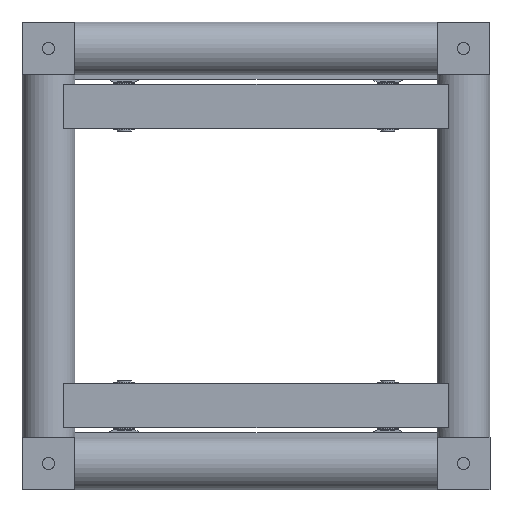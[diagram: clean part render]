
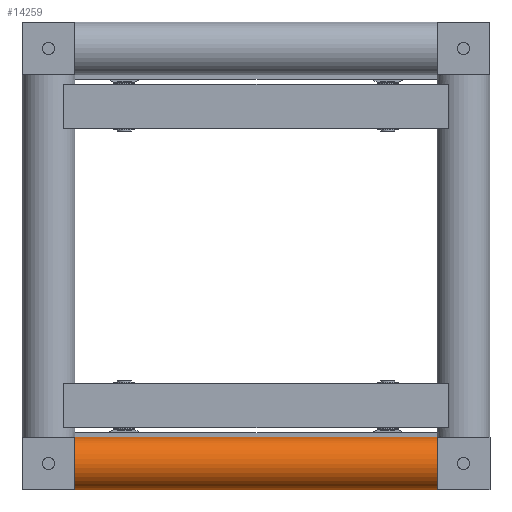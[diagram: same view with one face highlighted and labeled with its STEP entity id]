
A CAD part, left-side view. The second image highlights one B-rep face of the part: STEP entity #14259.
In plain terms, the highlighted cylindrical face has radius 30 mm (diameter 60 mm), a full revolution.
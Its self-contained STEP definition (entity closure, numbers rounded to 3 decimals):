
#2220=FACE_BOUND('',#4601,.T.);
#3134=FACE_OUTER_BOUND('',#4600,.T.);
#4600=EDGE_LOOP('',(#10352,#10353,#10354,#10355));
#4601=EDGE_LOOP('',(#10356,#10357,#10358,#10359));
#6092=CIRCLE('',#15856,30.);
#6093=CIRCLE('',#15857,30.);
#6094=CIRCLE('',#15858,30.);
#6095=CIRCLE('',#15859,30.);
#6096=CIRCLE('',#15860,30.);
#6097=CIRCLE('',#15861,30.);
#6098=CIRCLE('',#15862,30.);
#6099=CIRCLE('',#15863,30.);
#6983=VERTEX_POINT('',#22916);
#6997=VERTEX_POINT('',#22964);
#7088=VERTEX_POINT('',#23209);
#7089=VERTEX_POINT('',#23210);
#7090=VERTEX_POINT('',#23212);
#7091=VERTEX_POINT('',#23214);
#7092=VERTEX_POINT('',#23217);
#7093=VERTEX_POINT('',#23218);
#8364=EDGE_CURVE('',#7088,#7089,#6092,.T.);
#8365=EDGE_CURVE('',#7090,#7088,#6093,.T.);
#8366=EDGE_CURVE('',#7091,#7090,#6094,.T.);
#8367=EDGE_CURVE('',#7089,#7091,#6095,.T.);
#8368=EDGE_CURVE('',#7092,#7093,#6096,.T.);
#8369=EDGE_CURVE('',#6997,#7092,#6097,.T.);
#8370=EDGE_CURVE('',#6983,#6997,#6098,.T.);
#8371=EDGE_CURVE('',#7093,#6983,#6099,.T.);
#10352=ORIENTED_EDGE('',*,*,#8364,.F.);
#10353=ORIENTED_EDGE('',*,*,#8365,.F.);
#10354=ORIENTED_EDGE('',*,*,#8366,.F.);
#10355=ORIENTED_EDGE('',*,*,#8367,.F.);
#10356=ORIENTED_EDGE('',*,*,#8368,.F.);
#10357=ORIENTED_EDGE('',*,*,#8369,.F.);
#10358=ORIENTED_EDGE('',*,*,#8370,.F.);
#10359=ORIENTED_EDGE('',*,*,#8371,.F.);
#12540=CYLINDRICAL_SURFACE('',#15855,30.);
#14259=ADVANCED_FACE('',(#3134,#2220),#12540,.T.);
#15855=AXIS2_PLACEMENT_3D('',#23208,#18991,#18992);
#15856=AXIS2_PLACEMENT_3D('',#23211,#18993,#18994);
#15857=AXIS2_PLACEMENT_3D('',#23213,#18995,#18996);
#15858=AXIS2_PLACEMENT_3D('',#23215,#18997,#18998);
#15859=AXIS2_PLACEMENT_3D('',#23216,#18999,#19000);
#15860=AXIS2_PLACEMENT_3D('',#23219,#19001,#19002);
#15861=AXIS2_PLACEMENT_3D('',#23220,#19003,#19004);
#15862=AXIS2_PLACEMENT_3D('',#23221,#19005,#19006);
#15863=AXIS2_PLACEMENT_3D('',#23222,#19007,#19008);
#18991=DIRECTION('center_axis',(0.,-1.,0.));
#18992=DIRECTION('ref_axis',(0.058,0.,0.998));
#18993=DIRECTION('center_axis',(0.,-1.,0.));
#18994=DIRECTION('ref_axis',(0.058,0.,0.998));
#18995=DIRECTION('center_axis',(0.,-1.,0.));
#18996=DIRECTION('ref_axis',(0.058,0.,0.998));
#18997=DIRECTION('center_axis',(0.,-1.,0.));
#18998=DIRECTION('ref_axis',(0.058,0.,0.998));
#18999=DIRECTION('center_axis',(0.,-1.,0.));
#19000=DIRECTION('ref_axis',(0.058,0.,0.998));
#19001=DIRECTION('center_axis',(0.,1.,0.));
#19002=DIRECTION('ref_axis',(0.058,0.,0.998));
#19003=DIRECTION('center_axis',(0.,1.,0.));
#19004=DIRECTION('ref_axis',(0.058,0.,0.998));
#19005=DIRECTION('center_axis',(0.,1.,0.));
#19006=DIRECTION('ref_axis',(0.058,0.,0.998));
#19007=DIRECTION('center_axis',(0.,1.,0.));
#19008=DIRECTION('ref_axis',(0.058,0.,0.998));
#22916=CARTESIAN_POINT('',(0.,-30.,-440.));
#22964=CARTESIAN_POINT('',(30.,-30.,-470.));
#23208=CARTESIAN_POINT('Origin',(0.,-30.,
-470.));
#23209=CARTESIAN_POINT('',(-30.,-440.,-470.));
#23210=CARTESIAN_POINT('',(0.,-440.,-500.));
#23211=CARTESIAN_POINT('Origin',(0.,-440.,
-470.));
#23212=CARTESIAN_POINT('',(0.,-440.,-440.));
#23213=CARTESIAN_POINT('Origin',(0.,-440.,
-470.));
#23214=CARTESIAN_POINT('',(30.,-440.,-470.));
#23215=CARTESIAN_POINT('Origin',(0.,-440.,
-470.));
#23216=CARTESIAN_POINT('Origin',(0.,-440.,
-470.));
#23217=CARTESIAN_POINT('',(0.,-30.,-500.));
#23218=CARTESIAN_POINT('',(-30.,-30.,-470.));
#23219=CARTESIAN_POINT('Origin',(0.,-30.,
-470.));
#23220=CARTESIAN_POINT('Origin',(0.,-30.,
-470.));
#23221=CARTESIAN_POINT('Origin',(0.,-30.,
-470.));
#23222=CARTESIAN_POINT('Origin',(0.,-30.,
-470.));
